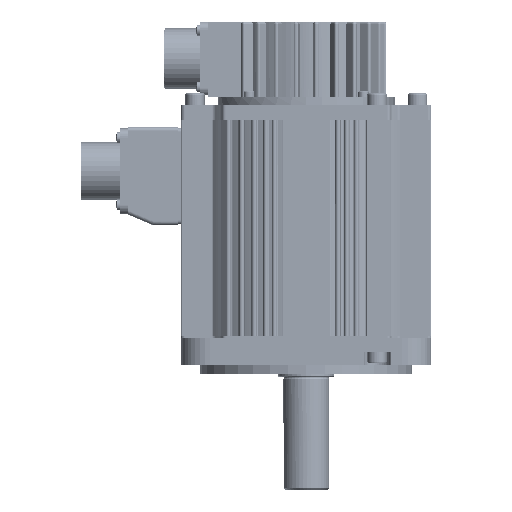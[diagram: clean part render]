
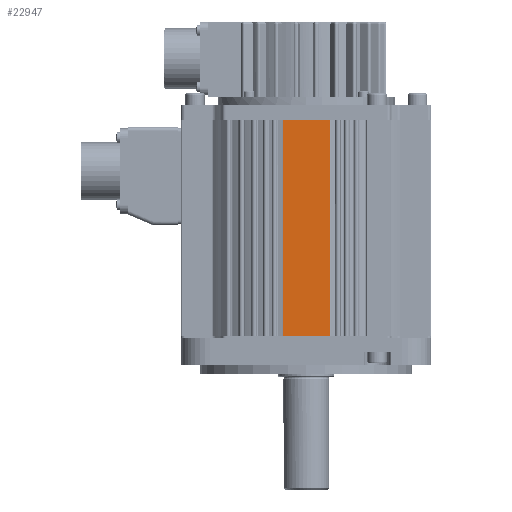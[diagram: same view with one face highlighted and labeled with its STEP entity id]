
A CAD part, left-side view. The second image highlights one B-rep face of the part: STEP entity #22947.
In plain terms, the highlighted planar face has unit normal (-1, 0, 0) as drawn and (0, 1, 0) by its records, which use the part's own axes.
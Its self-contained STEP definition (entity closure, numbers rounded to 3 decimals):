
#6773=DIRECTION('',(0.,0.,-1.));
#6774=VECTOR('',#6773,24.632);
#6775=CARTESIAN_POINT('',(112.,65.,12.3));
#6776=LINE('',#6775,#6774);
#9656=DIRECTION('',(1.,0.,0.));
#9657=VECTOR('',#9656,112.);
#9658=CARTESIAN_POINT('',(0.,65.,12.3));
#9659=LINE('',#9658,#9657);
#9660=DIRECTION('',(0.,0.,-1.));
#9661=VECTOR('',#9660,24.632);
#9662=CARTESIAN_POINT('',(0.,65.,12.3));
#9663=LINE('',#9662,#9661);
#9668=DIRECTION('',(-1.,0.,0.));
#9669=VECTOR('',#9668,112.);
#9670=CARTESIAN_POINT('',(112.,65.,-12.332));
#9671=LINE('',#9670,#9669);
#10976=CARTESIAN_POINT('',(0.,65.,-12.332));
#10977=VERTEX_POINT('',#10976);
#10978=CARTESIAN_POINT('',(0.,65.,12.3));
#10979=VERTEX_POINT('',#10978);
#13073=CARTESIAN_POINT('',(112.,65.,12.3));
#13074=VERTEX_POINT('',#13073);
#13075=CARTESIAN_POINT('',(112.,65.,-12.332));
#13076=VERTEX_POINT('',#13075);
#22935=CARTESIAN_POINT('',(0.,65.,-65.));
#22936=DIRECTION('',(0.,1.,0.));
#22937=DIRECTION('',(0.,0.,1.));
#22938=AXIS2_PLACEMENT_3D('',#22935,#22936,#22937);
#22939=PLANE('',#22938);
#22941=ORIENTED_EDGE('',*,*,#22940,.F.);
#22942=ORIENTED_EDGE('',*,*,#16035,.F.);
#22943=ORIENTED_EDGE('',*,*,#22930,.F.);
#22944=ORIENTED_EDGE('',*,*,#13715,.T.);
#22945=EDGE_LOOP('',(#22941,#22942,#22943,#22944));
#22946=FACE_OUTER_BOUND('',#22945,.F.);
#22947=ADVANCED_FACE('',(#22946),#22939,.T.);
#13715=EDGE_CURVE('',#10979,#10977,#9663,.T.);
#16035=EDGE_CURVE('',#13074,#13076,#6776,.T.);
#22930=EDGE_CURVE('',#10979,#13074,#9659,.T.);
#22940=EDGE_CURVE('',#13076,#10977,#9671,.T.);
